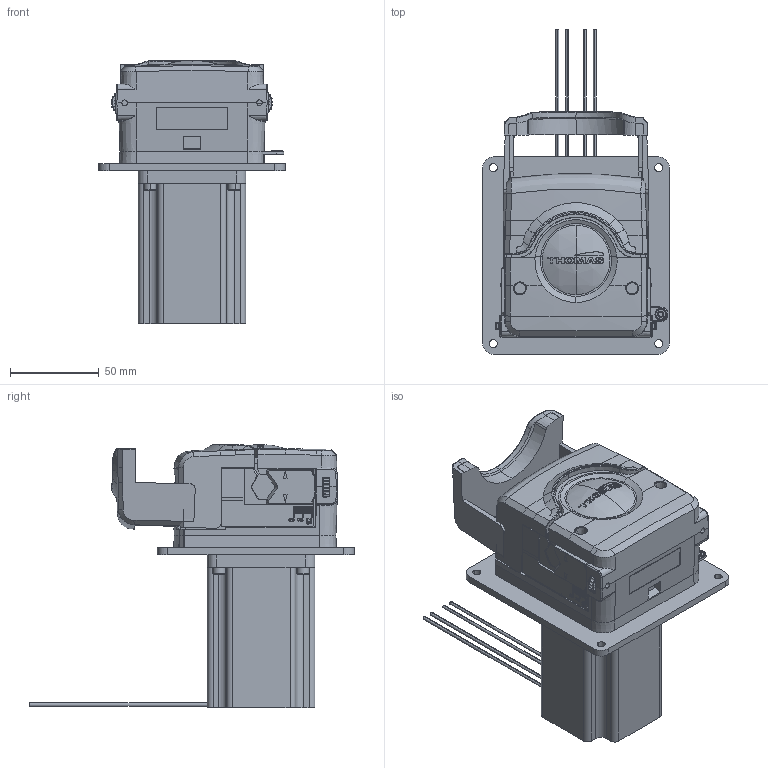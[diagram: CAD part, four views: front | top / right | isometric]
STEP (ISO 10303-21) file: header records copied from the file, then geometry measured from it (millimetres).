
FILE_DESCRIPTION (( 'STEP AP214' ), '1' );
FILE_NAME ('ETL500_PUMP.STEP', '2022-01-24T13:40:32', ( '' ), ( '' ), 'SwSTEP 2.0', 'SolidWorks 2020', '' );
FILE_SCHEMA (( 'AUTOMOTIVE_DESIGN' ));
Length unit declared in the file: millimetre
Products named in the file (1): ETL500_PUMP
Bounding box: 105 x 182.75 x 148.21 mm (x, y, z)
Volume: 740590.3 mm3; surface area: 101480.6 mm2
Topology: 2 solids, 60 shells, 2668 faces, 7187 edges, 4687 vertices
Faces by surface type: plane 1546, cone 431, bspline 340, cylinder 265, torus 68, sphere 18
Entity records: 129724 total; most frequent: CARTESIAN_POINT 37076, ORIENTED_EDGE 14362, DIRECTION 11817, EDGE_CURVE 7181, VERTEX_POINT 4687, AXIS2_PLACEMENT_3D 4251, LINE 3315, VECTOR 3315
